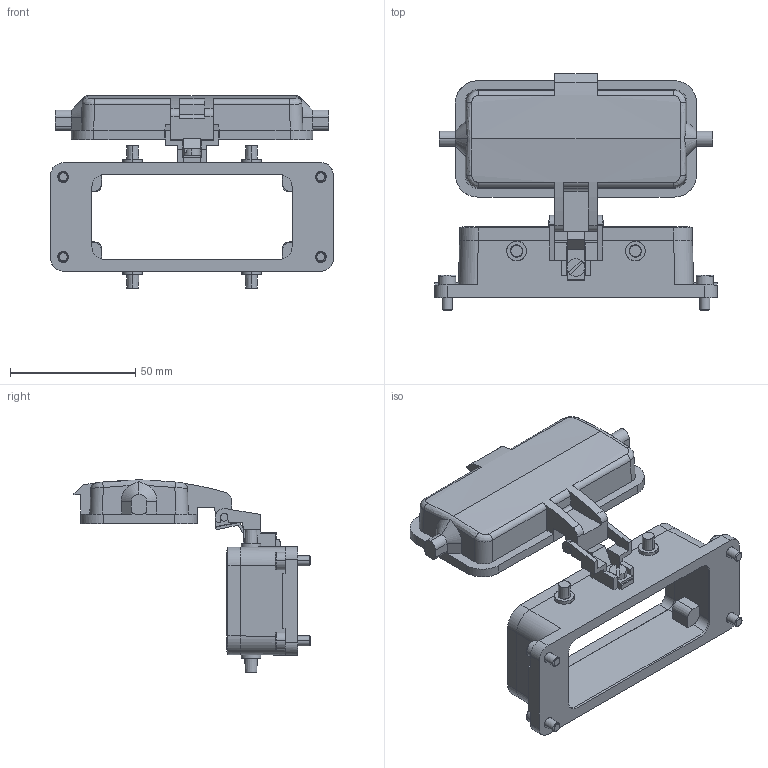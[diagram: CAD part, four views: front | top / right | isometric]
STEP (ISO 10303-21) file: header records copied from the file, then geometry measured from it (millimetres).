
FILE_DESCRIPTION (( 'STEP AP214' ), '1' );
FILE_NAME ('E2714_16B.STEP', '2012-06-20T06:00:51', ( 'blub' ), ( '' ), 'SwSTEP 2.0', 'SolidWorks 2012', '' );
FILE_SCHEMA (( 'AUTOMOTIVE_DESIGN' ));
Length unit declared in the file: millimetre
Products named in the file (3): E1200_4x10; E2714_16B
Assembly tree (5 placements, depth 2):
  E2714_16B
    E2714_16B
    E1200_4x10  x4
Bounding box: 113 x 94.39 x 76.94 mm (x, y, z)
Volume: 55983.6 mm3; surface area: 41500.6 mm2
Topology: 5 solids, 6 shells, 392 faces, 1015 edges, 653 vertices
Faces by surface type: plane 229, cylinder 97, bspline 46, cone 20
Entity records: 16854 total; most frequent: CARTESIAN_POINT 4944, ORIENTED_EDGE 1802, DIRECTION 1497, EDGE_CURVE 901, VERTEX_POINT 581, LINE 563, VECTOR 563, AXIS2_PLACEMENT_3D 467
